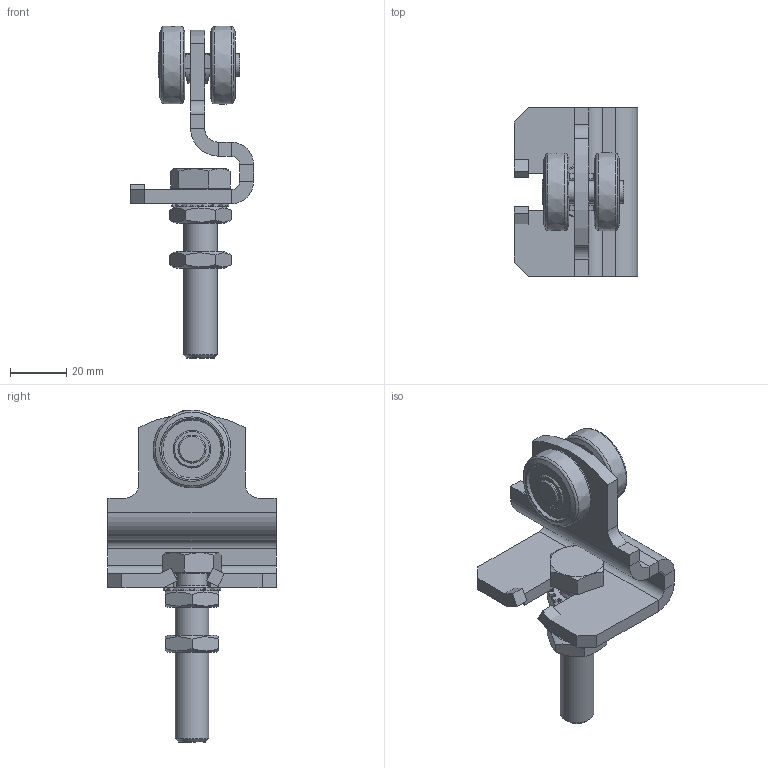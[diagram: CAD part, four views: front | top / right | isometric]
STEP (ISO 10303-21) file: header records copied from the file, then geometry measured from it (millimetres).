
FILE_DESCRIPTION(/* description */ ('Aufhaengehaken zu Einfachrolle Nr.1'),/* implementation_level */ '2;1');
FILE_NAME(/* name */ 'Q:\sge-ma\Produktmanagement-STB\STB\Workspace\stp\010336310.stp',/* time_stamp */ '2016-07-15T10:34:35+02:00',/* author */ ('avschreier'),/* organization */ (''),/* preprocessor_version */ 'ST-DEVELOPER v16.1',/* originating_system */ 'Autodesk Inventor 2016',/* authorisation */ '');
FILE_SCHEMA (('AUTOMOTIVE_DESIGN { 1 0 10303 214 3 1 1 }'));
Length unit declared in the file: millimetre
Products named in the file (8): 337000112; 000303235; 000304011; 336290010; DIN_EN_ISO_4035-M12_en; DIN_6798-A_13_en; DIN_EN_ISO_4017-M12x60_en; 010336310
Assembly tree (10 placements, depth 2):
  010336310
    337000112
    000303235  x2
    000304011
    336290010  x2
    DIN_EN_ISO_4035-M12_en  x2
    DIN_6798-A_13_en
    DIN_EN_ISO_4017-M12x60_en
Bounding box: 44 x 60 x 118.45 mm (x, y, z)
Volume: 49279.6 mm3; surface area: 24148.2 mm2
Topology: 10 solids, 10 shells, 335 faces, 835 edges, 531 vertices
Faces by surface type: plane 185, cylinder 98, cone 33, bspline 14, torus 5
Full cylindrical faces by diameter (mm): 8 x3, 10 x1, 10.106 x2, 11.053 x1, 12 x1, 13 x1, 17.2 x1
Entity records: 8743 total; most frequent: CARTESIAN_POINT 2185, DIRECTION 1392, ORIENTED_EDGE 1288, EDGE_CURVE 644, AXIS2_PLACEMENT_3D 508, VERTEX_POINT 425, LINE 376, VECTOR 376
